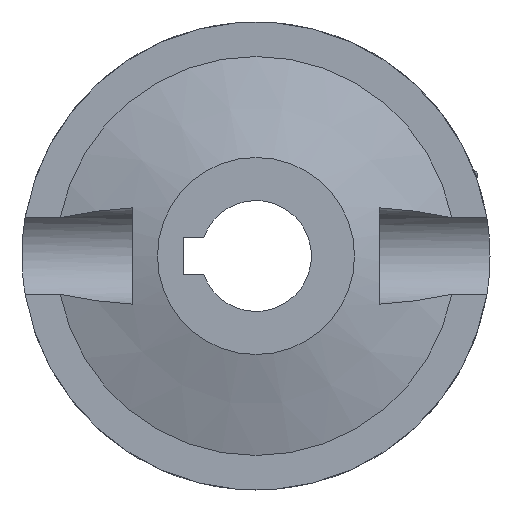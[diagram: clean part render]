
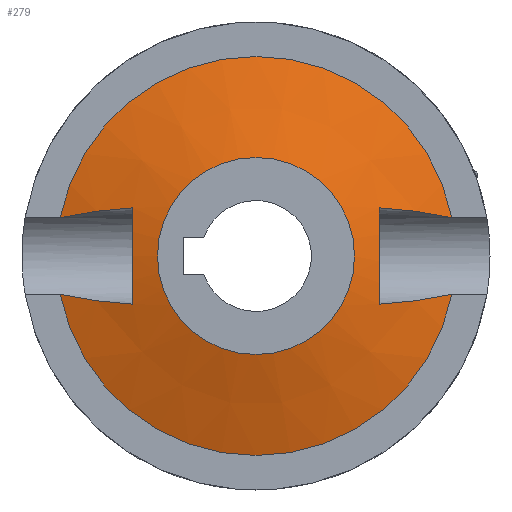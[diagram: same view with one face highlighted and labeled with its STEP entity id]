
A CAD part, front view. The second image highlights one B-rep face of the part: STEP entity #279.
In plain terms, the highlighted conical face has half-angle 73.045 degrees and reference radius 17.02 mm.
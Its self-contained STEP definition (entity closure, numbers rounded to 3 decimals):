
#279 = ADVANCED_FACE( '', ( #633, #634 ), #635, .T. );
#633 = FACE_OUTER_BOUND( '', #1083, .T. );
#634 = FACE_BOUND( '', #1084, .T. );
#635 = CONICAL_SURFACE( '', #1085, 17.02, 1.275 );
#1083 = EDGE_LOOP( '', ( #1717, #1718, #1719, #1720, #1721, #1722, #1723, #1724 ) );
#1084 = EDGE_LOOP( '', ( #1725 ) );
#1085 = AXIS2_PLACEMENT_3D( '', #1726, #1727, #1728 );
#1717 = ORIENTED_EDGE( '', *, *, #2122, .T. );
#1718 = ORIENTED_EDGE( '', *, *, #2180, .T. );
#1719 = ORIENTED_EDGE( '', *, *, #2124, .T. );
#1720 = ORIENTED_EDGE( '', *, *, #2158, .T. );
#1721 = ORIENTED_EDGE( '', *, *, #2182, .F. );
#1722 = ORIENTED_EDGE( '', *, *, #1968, .F. );
#1723 = ORIENTED_EDGE( '', *, *, #2183, .F. );
#1724 = ORIENTED_EDGE( '', *, *, #2119, .T. );
#1725 = ORIENTED_EDGE( '', *, *, #2184, .T. );
#1726 = CARTESIAN_POINT( '', ( 0., 0.25, 0. ) );
#1727 = DIRECTION( '', ( 0., 1., 0. ) );
#1728 = DIRECTION( '', ( -1., 0., 0. ) );
#1968 = EDGE_CURVE( '', #2258, #2259, #2260, .T. );
#2119 = EDGE_CURVE( '', #2496, #2498, #2500, .F. );
#2122 = EDGE_CURVE( '', #2498, #2503, #2505, .T. );
#2124 = EDGE_CURVE( '', #2502, #2506, #2508, .T. );
#2158 = EDGE_CURVE( '', #2506, #2552, #2554, .F. );
#2180 = EDGE_CURVE( '', #2503, #2502, #2581, .T. );
#2182 = EDGE_CURVE( '', #2259, #2552, #2583, .T. );
#2183 = EDGE_CURVE( '', #2496, #2258, #2584, .T. );
#2184 = EDGE_CURVE( '', #2585, #2585, #2586, .T. );
#2258 = VERTEX_POINT( '', #2709 );
#2259 = VERTEX_POINT( '', #2710 );
#2260 = B_SPLINE_CURVE_WITH_KNOTS( '', 3, ( #2711, #2712, #2713, #2714, #2715, #2716 ), .UNSPECIFIED., .F., .F., ( 4, 2, 4 ), ( -0.004, 0., 0.004 ), .UNSPECIFIED. );
#2496 = VERTEX_POINT( '', #3227 );
#2498 = VERTEX_POINT( '', #3230 );
#2500 = CIRCLE( '', #3233, 16.2 );
#2502 = VERTEX_POINT( '', #3235 );
#2503 = VERTEX_POINT( '', #3236 );
#2505 = B_SPLINE_CURVE_WITH_KNOTS( '', 3, ( #3238, #3239, #3240, #3241, #3242, #3243 ), .UNSPECIFIED., .F., .F., ( 4, 2, 4 ), ( 0., 0.003, 0.006 ), .UNSPECIFIED. );
#2506 = VERTEX_POINT( '', #3244 );
#2508 = B_SPLINE_CURVE_WITH_KNOTS( '', 3, ( #3247, #3248, #3249, #3250, #3251, #3252 ), .UNSPECIFIED., .F., .F., ( 4, 2, 4 ), ( 0., 0.003, 0.006 ), .UNSPECIFIED. );
#2552 = VERTEX_POINT( '', #3323 );
#2554 = CIRCLE( '', #3326, 16.2 );
#2581 = B_SPLINE_CURVE_WITH_KNOTS( '', 3, ( #3423, #3424, #3425, #3426, #3427, #3428 ), .UNSPECIFIED., .F., .F., ( 4, 2, 4 ), ( -0.004, 0., 0.004 ), .UNSPECIFIED. );
#2583 = B_SPLINE_CURVE_WITH_KNOTS( '', 3, ( #3430, #3431, #3432, #3433, #3434, #3435 ), .UNSPECIFIED., .F., .F., ( 4, 2, 4 ), ( 0., 0.003, 0.006 ), .UNSPECIFIED. );
#2584 = B_SPLINE_CURVE_WITH_KNOTS( '', 3, ( #3436, #3437, #3438, #3439, #3440, #3441 ), .UNSPECIFIED., .F., .F., ( 4, 2, 4 ), ( 0., 0.003, 0.006 ), .UNSPECIFIED. );
#2585 = VERTEX_POINT( '', #3442 );
#2586 = CIRCLE( '', #3443, 8. );
#2709 = CARTESIAN_POINT( '', ( -10., -1.665, -3.91 ) );
#2710 = CARTESIAN_POINT( '', ( -10., -1.665, 3.91 ) );
#2711 = CARTESIAN_POINT( '', ( -10., -1.665, -3.91 ) );
#2712 = CARTESIAN_POINT( '', ( -10., -1.81, -2.611 ) );
#2713 = CARTESIAN_POINT( '', ( -10., -1.89, -1.308 ) );
#2714 = CARTESIAN_POINT( '', ( -10., -1.89, 1.308 ) );
#2715 = CARTESIAN_POINT( '', ( -10., -1.81, 2.611 ) );
#2716 = CARTESIAN_POINT( '', ( -10., -1.665, 3.91 ) );
#3227 = CARTESIAN_POINT( '', ( -15.897, 0., -3.116 ) );
#3230 = CARTESIAN_POINT( '', ( 15.897, 0., -3.116 ) );
#3233 = AXIS2_PLACEMENT_3D( '', #3824, #3825, #3826 );
#3235 = CARTESIAN_POINT( '', ( 10., -1.665, 3.91 ) );
#3236 = CARTESIAN_POINT( '', ( 10., -1.665, -3.91 ) );
#3238 = CARTESIAN_POINT( '', ( 15.897, 0., -3.116 ) );
#3239 = CARTESIAN_POINT( '', ( 14.927, -0.277, -3.34 ) );
#3240 = CARTESIAN_POINT( '', ( 13.948, -0.556, -3.505 ) );
#3241 = CARTESIAN_POINT( '', ( 11.982, -1.112, -3.761 ) );
#3242 = CARTESIAN_POINT( '', ( 10.993, -1.39, -3.851 ) );
#3243 = CARTESIAN_POINT( '', ( 10., -1.665, -3.91 ) );
#3244 = CARTESIAN_POINT( '', ( 15.897, 0., 3.116 ) );
#3247 = CARTESIAN_POINT( '', ( 10., -1.665, 3.91 ) );
#3248 = CARTESIAN_POINT( '', ( 10.993, -1.39, 3.851 ) );
#3249 = CARTESIAN_POINT( '', ( 11.982, -1.112, 3.761 ) );
#3250 = CARTESIAN_POINT( '', ( 13.948, -0.556, 3.505 ) );
#3251 = CARTESIAN_POINT( '', ( 14.927, -0.277, 3.34 ) );
#3252 = CARTESIAN_POINT( '', ( 15.897, 0., 3.116 ) );
#3323 = CARTESIAN_POINT( '', ( -15.897, 0., 3.116 ) );
#3326 = AXIS2_PLACEMENT_3D( '', #3873, #3874, #3875 );
#3423 = CARTESIAN_POINT( '', ( 10., -1.665, -3.91 ) );
#3424 = CARTESIAN_POINT( '', ( 10., -1.81, -2.611 ) );
#3425 = CARTESIAN_POINT( '', ( 10., -1.89, -1.308 ) );
#3426 = CARTESIAN_POINT( '', ( 10., -1.89, 1.308 ) );
#3427 = CARTESIAN_POINT( '', ( 10., -1.81, 2.611 ) );
#3428 = CARTESIAN_POINT( '', ( 10., -1.665, 3.91 ) );
#3430 = CARTESIAN_POINT( '', ( -10., -1.665, 3.91 ) );
#3431 = CARTESIAN_POINT( '', ( -10.993, -1.39, 3.851 ) );
#3432 = CARTESIAN_POINT( '', ( -11.982, -1.112, 3.761 ) );
#3433 = CARTESIAN_POINT( '', ( -13.948, -0.556, 3.505 ) );
#3434 = CARTESIAN_POINT( '', ( -14.927, -0.277, 3.34 ) );
#3435 = CARTESIAN_POINT( '', ( -15.897, 0., 3.116 ) );
#3436 = CARTESIAN_POINT( '', ( -15.897, 0., -3.116 ) );
#3437 = CARTESIAN_POINT( '', ( -14.927, -0.277, -3.34 ) );
#3438 = CARTESIAN_POINT( '', ( -13.948, -0.556, -3.505 ) );
#3439 = CARTESIAN_POINT( '', ( -11.982, -1.112, -3.761 ) );
#3440 = CARTESIAN_POINT( '', ( -10.993, -1.39, -3.851 ) );
#3441 = CARTESIAN_POINT( '', ( -10., -1.665, -3.91 ) );
#3442 = CARTESIAN_POINT( '', ( -8., -2.5, 0. ) );
#3443 = AXIS2_PLACEMENT_3D( '', #3897, #3898, #3899 );
#3824 = CARTESIAN_POINT( '', ( 0., 0., 0. ) );
#3825 = DIRECTION( '', ( 0., 1., 0. ) );
#3826 = DIRECTION( '', ( -1., 0., 0. ) );
#3873 = CARTESIAN_POINT( '', ( 0., 0., 0. ) );
#3874 = DIRECTION( '', ( 0., 1., 0. ) );
#3875 = DIRECTION( '', ( -1., 0., 0. ) );
#3897 = CARTESIAN_POINT( '', ( 0., -2.5, 0. ) );
#3898 = DIRECTION( '', ( 0., 1., 0. ) );
#3899 = DIRECTION( '', ( -1., 0., 0. ) );
